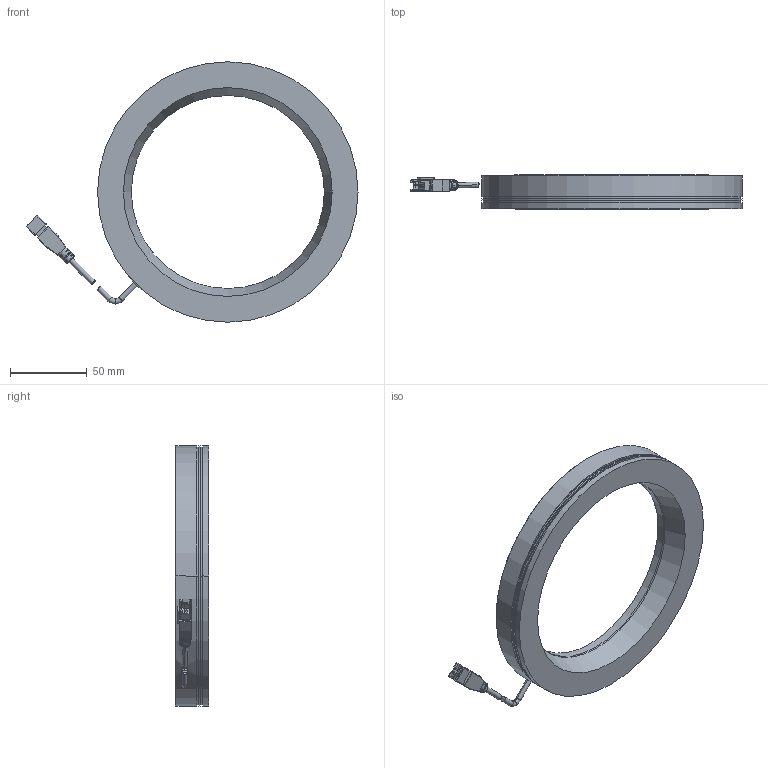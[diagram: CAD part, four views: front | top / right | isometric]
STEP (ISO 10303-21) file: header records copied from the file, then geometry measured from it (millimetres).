
FILE_DESCRIPTION((''),'2;1');
FILE_NAME('MV-LRDS-170-20_ASM','2019-09-19T',('rs-zhongwm'),(''),'PRO/ENGINEER BY PARAMETRIC TECHNOLOGY CORPORATION, 2010100','PRO/ENGINEER BY PARAMETRIC TECHNOLOGY CORPORATION, 2010100','');
FILE_SCHEMA(('CONFIG_CONTROL_DESIGN'));
Length unit declared in the file: millimetre
Products named in the file (5): PRT0053; PRT0054; PRT0055; ASM0030_ASM; MV-LRDS-170-20_ASM
Assembly tree (4 placements, depth 3):
  MV-LRDS-170-20_ASM
    PRT0053
    ASM0030_ASM
      PRT0054
      PRT0055
Bounding box: 216.73 x 22 x 170 mm (x, y, z)
Volume: 205611.9 mm3; surface area: 45925.1 mm2
Topology: 3 solids, 7 shells, 285 faces, 716 edges, 445 vertices
Faces by surface type: plane 140, cylinder 99, cone 16, torus 14, bspline 8, sphere 8
Entity records: 8795 total; most frequent: CARTESIAN_POINT 1848, DIRECTION 1472, ORIENTED_EDGE 1384, EDGE_CURVE 700, AXIS2_PLACEMENT_3D 530, VERTEX_POINT 445, VECTOR 412, LINE 412
